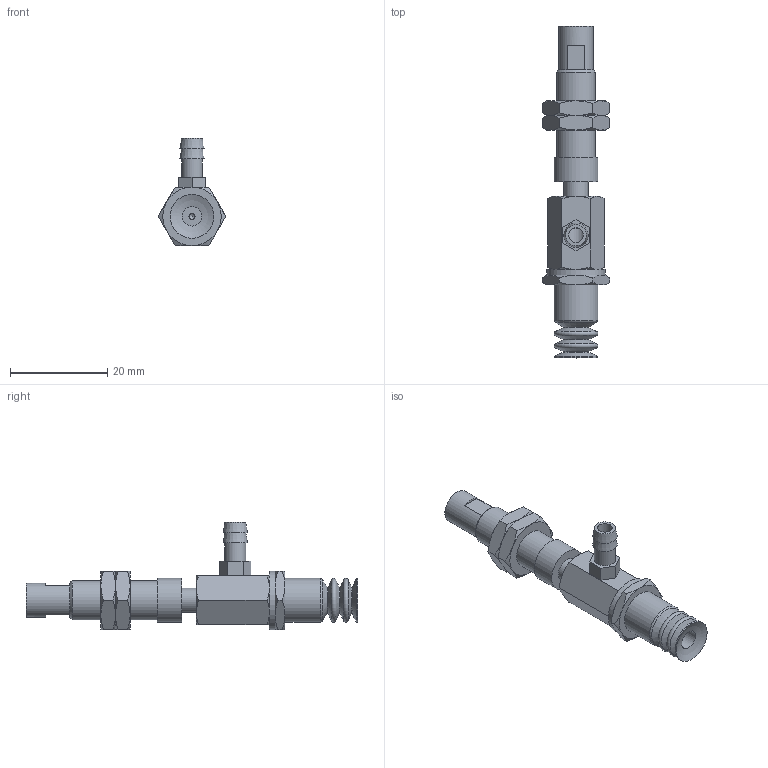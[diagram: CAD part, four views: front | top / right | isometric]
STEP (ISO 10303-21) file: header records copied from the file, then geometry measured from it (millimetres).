
FILE_DESCRIPTION(('STEP AP203'),'1');
FILE_NAME('-T.stp','2025-04-03T06:23:27',(' '),(' '),'Spatial InterOp 3D',' ',' ');
FILE_SCHEMA(('CONFIG_CONTROL_DESIGN'));
Length unit declared in the file: millimetre
Products named in the file (8): BNABPCYS-10-3-※-T; Adapter_napc-10-T; Connector_s-10-3; Nut napc_s-10-3; NAPCTS-10-3-FBODY; NAPCTS-10-3-MBODY; BPCG-10-※; T
Assembly tree (8 placements, depth 2):
  BNABPCYS-10-3-※-T
    Adapter_napc-10-T
    Connector_s-10-3
    Nut napc_s-10-3  x2
    NAPCTS-10-3-FBODY
    NAPCTS-10-3-MBODY
    BPCG-10-※
    T
Bounding box: 13.86 x 68.2 x 22 mm (x, y, z)
Volume: 4519 mm3; surface area: 5218.5 mm2
Topology: 8 solids, 8 shells, 177 faces, 364 edges, 216 vertices
Faces by surface type: cone 72, plane 71, cylinder 24, torus 8, sphere 2
Full cylindrical faces by diameter (mm): 1.25 x1, 3 x1, 4 x1, 4.134 x3, 4.3 x1, 5 x9, 7 x1, 7.188 x2, 8 x1, 9 x3, 12 x1
Entity records: 4506 total; most frequent: CARTESIAN_POINT 1140, DIRECTION 626, ORIENTED_EDGE 516, AXIS2_PLACEMENT_3D 281, EDGE_CURVE 258, EDGE_LOOP 232, FACE_OUTER_BOUND 187, VERTEX_POINT 185
